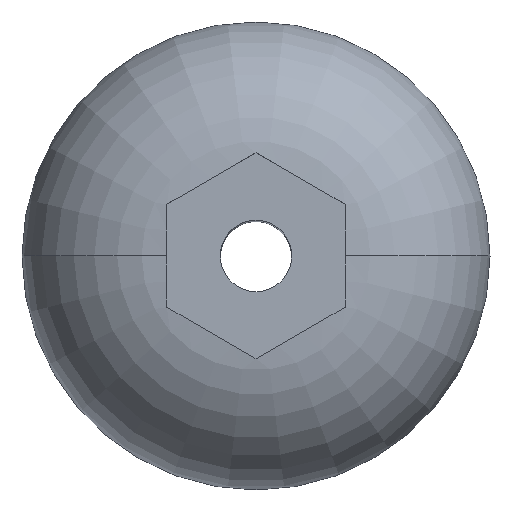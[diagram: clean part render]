
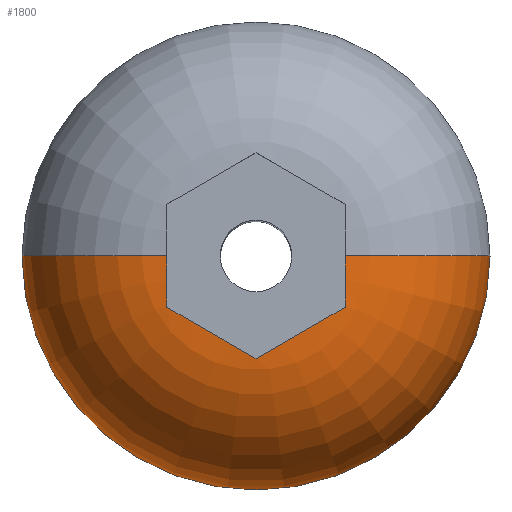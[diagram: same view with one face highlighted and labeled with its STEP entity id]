
A CAD part, top view. The second image highlights one B-rep face of the part: STEP entity #1800.
In plain terms, the highlighted toroidal (fillet/blend) face has major radius 1.95 mm and minor radius 3.3 mm.
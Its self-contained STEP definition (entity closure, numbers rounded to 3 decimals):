
#41 = ORIENTED_EDGE ( 'NONE', *, *, #1627, .T. ) ;
#48 = CARTESIAN_POINT ( 'NONE',  ( -1.95, 0., 0. ) ) ;
#58 = EDGE_CURVE ( 'NONE', #144, #1177, #990, .T. ) ;
#95 = CARTESIAN_POINT ( 'NONE',  ( -2., -0.77, 3.295 ) ) ;
#144 = VERTEX_POINT ( 'NONE', #1534 ) ;
#183 = CARTESIAN_POINT ( 'NONE',  ( -1., -1.732, 3.298 ) ) ;
#194 = CARTESIAN_POINT ( 'NONE',  ( 2., 0., 3.3 ) ) ;
#211 = TOROIDAL_SURFACE ( 'NONE', #1150, 1.95, 3.3 ) ;
#226 = CIRCLE ( 'NONE', #645, 3.3 ) ;
#278 = CARTESIAN_POINT ( 'NONE',  ( 5.25, 0., 0. ) ) ;
#279 = EDGE_CURVE ( 'NONE', #1826, #449, #1987, .T. ) ;
#286 = CARTESIAN_POINT ( 'NONE',  ( -2., 0., 3.3 ) ) ;
#293 = CARTESIAN_POINT ( 'NONE',  ( 1., -1.732, 3.298 ) ) ;
#308 = CARTESIAN_POINT ( 'NONE',  ( 2., -0.77, 3.295 ) ) ;
#391 = VERTEX_POINT ( 'NONE', #1999 ) ;
#419 = VERTEX_POINT ( 'NONE', #278 ) ;
#449 = VERTEX_POINT ( 'NONE', #649 ) ;
#522 = CARTESIAN_POINT ( 'NONE',  ( 1.95, 0., 0. ) ) ;
#575 = B_SPLINE_CURVE_WITH_KNOTS ( 'NONE', 3,
 ( #1062, #1068, #95, #1537, #2009, #286 ),
 .UNSPECIFIED., .F., .F.,
 ( 4, 2, 4 ),
 ( 0.026, 0.026, 0.027 ),
 .UNSPECIFIED. ) ;
#581 = ORIENTED_EDGE ( 'NONE', *, *, #279, .F. ) ;
#601 = EDGE_CURVE ( 'NONE', #391, #449, #575, .T. ) ;
#609 = CARTESIAN_POINT ( 'NONE',  ( 0.333, -2.117, 3.301 ) ) ;
#615 = CARTESIAN_POINT ( 'NONE',  ( 2., -0.193, 3.3 ) ) ;
#625 = FACE_OUTER_BOUND ( 'NONE', #740, .T. ) ;
#645 = AXIS2_PLACEMENT_3D ( 'NONE', #522, #1929, #1824 ) ;
#649 = CARTESIAN_POINT ( 'NONE',  ( -2., 0., 3.3 ) ) ;
#657 = AXIS2_PLACEMENT_3D ( 'NONE', #48, #953, #687 ) ;
#687 = DIRECTION ( 'NONE',  ( -1., 0., 0. ) ) ;
#730 = CARTESIAN_POINT ( 'NONE',  ( 2., -0.385, 3.3 ) ) ;
#740 = EDGE_LOOP ( 'NONE', ( #581, #41, #1219, #1358, #1933, #795, #1822 ) ) ;
#766 = EDGE_CURVE ( 'NONE', #419, #1131, #226, .T. ) ;
#795 = ORIENTED_EDGE ( 'NONE', *, *, #1475, .T. ) ;
#816 = CARTESIAN_POINT ( 'NONE',  ( -1.667, -1.347, 3.301 ) ) ;
#842 = DIRECTION ( 'NONE',  ( 0., 0., 1. ) ) ;
#891 = CARTESIAN_POINT ( 'NONE',  ( 0., -2.309, 3.28 ) ) ;
#908 = CARTESIAN_POINT ( 'NONE',  ( 2., -1.155, 3.28 ) ) ;
#936 = CARTESIAN_POINT ( 'NONE',  ( 2., -1.155, 3.28 ) ) ;
#953 = DIRECTION ( 'NONE',  ( 0., 1., 0. ) ) ;
#990 = B_SPLINE_CURVE_WITH_KNOTS ( 'NONE', 3,
 ( #908, #1529, #293, #609, #891 ),
 .UNSPECIFIED., .F., .F.,
 ( 4, 1, 4 ),
 ( 0., 0.001, 0.002 ),
 .UNSPECIFIED. ) ;
#1058 = DIRECTION ( 'NONE',  ( 0., 0., 1. ) ) ;
#1062 = CARTESIAN_POINT ( 'NONE',  ( -2., -1.155, 3.28 ) ) ;
#1068 = CARTESIAN_POINT ( 'NONE',  ( -2., -0.963, 3.291 ) ) ;
#1111 = CARTESIAN_POINT ( 'NONE',  ( 0., -2.309, 3.28 ) ) ;
#1131 = VERTEX_POINT ( 'NONE', #194 ) ;
#1150 = AXIS2_PLACEMENT_3D ( 'NONE', #1859, #1058, #2003 ) ;
#1177 = VERTEX_POINT ( 'NONE', #1535 ) ;
#1219 = ORIENTED_EDGE ( 'NONE', *, *, #766, .T. ) ;
#1267 = EDGE_CURVE ( 'NONE', #1131, #144, #1461, .T. ) ;
#1358 = ORIENTED_EDGE ( 'NONE', *, *, #1267, .T. ) ;
#1431 = CARTESIAN_POINT ( 'NONE',  ( -2., -1.155, 3.28 ) ) ;
#1461 = B_SPLINE_CURVE_WITH_KNOTS ( 'NONE', 3,
 ( #1882, #615, #730, #308, #1890, #936 ),
 .UNSPECIFIED., .F., .F.,
 ( 4, 2, 4 ),
 ( 0., 0.001, 0.001 ),
 .UNSPECIFIED. ) ;
#1475 = EDGE_CURVE ( 'NONE', #1177, #391, #1486, .T. ) ;
#1486 = B_SPLINE_CURVE_WITH_KNOTS ( 'NONE', 3,
 ( #1111, #1911, #183, #816, #1431 ),
 .UNSPECIFIED., .F., .F.,
 ( 4, 1, 4 ),
 ( 0., 0.001, 0.002 ),
 .UNSPECIFIED. ) ;
#1500 = CIRCLE ( 'NONE', #1672, 5.25 ) ;
#1526 = CARTESIAN_POINT ( 'NONE',  ( -5.25, 0., 0. ) ) ;
#1529 = CARTESIAN_POINT ( 'NONE',  ( 1.667, -1.347, 3.301 ) ) ;
#1534 = CARTESIAN_POINT ( 'NONE',  ( 2., -1.155, 3.28 ) ) ;
#1535 = CARTESIAN_POINT ( 'NONE',  ( 0., -2.309, 3.28 ) ) ;
#1537 = CARTESIAN_POINT ( 'NONE',  ( -2., -0.385, 3.3 ) ) ;
#1627 = EDGE_CURVE ( 'NONE', #1826, #419, #1500, .T. ) ;
#1672 = AXIS2_PLACEMENT_3D ( 'NONE', #1801, #842, #1944 ) ;
#1800 = ADVANCED_FACE ( 'NONE', ( #625 ), #211, .T. ) ;
#1801 = CARTESIAN_POINT ( 'NONE',  ( 0., 0., 0. ) ) ;
#1822 = ORIENTED_EDGE ( 'NONE', *, *, #601, .T. ) ;
#1824 = DIRECTION ( 'NONE',  ( 0., 0., -1. ) ) ;
#1826 = VERTEX_POINT ( 'NONE', #1526 ) ;
#1859 = CARTESIAN_POINT ( 'NONE',  ( 0., 0., 0. ) ) ;
#1882 = CARTESIAN_POINT ( 'NONE',  ( 2., 0., 3.3 ) ) ;
#1890 = CARTESIAN_POINT ( 'NONE',  ( 2., -0.963, 3.291 ) ) ;
#1911 = CARTESIAN_POINT ( 'NONE',  ( -0.333, -2.117, 3.301 ) ) ;
#1929 = DIRECTION ( 'NONE',  ( 0., -1., 0. ) ) ;
#1933 = ORIENTED_EDGE ( 'NONE', *, *, #58, .T. ) ;
#1944 = DIRECTION ( 'NONE',  ( 1., 0., 0. ) ) ;
#1987 = CIRCLE ( 'NONE', #657, 3.3 ) ;
#1999 = CARTESIAN_POINT ( 'NONE',  ( -2., -1.155, 3.28 ) ) ;
#2003 = DIRECTION ( 'NONE',  ( 1., 0., 0. ) ) ;
#2009 = CARTESIAN_POINT ( 'NONE',  ( -2., -0.194, 3.3 ) ) ;
